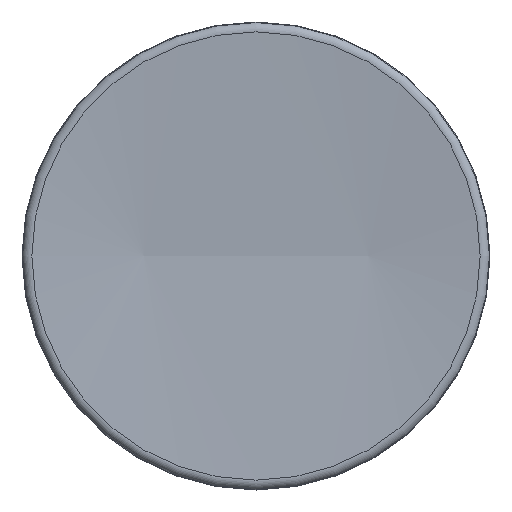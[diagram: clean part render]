
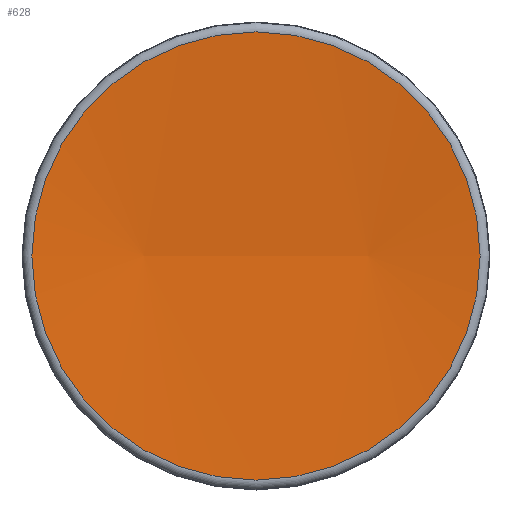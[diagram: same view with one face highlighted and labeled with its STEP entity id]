
A CAD part, front view. The second image highlights one B-rep face of the part: STEP entity #628.
In plain terms, the highlighted spherical face has radius 600 mm.
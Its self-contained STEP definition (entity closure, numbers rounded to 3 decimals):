
#28=SPHERICAL_SURFACE('',#857,600.);
#84=FACE_OUTER_BOUND('',#111,.T.);
#111=EDGE_LOOP('',(#597,#598));
#312=VERTEX_POINT('',#1803);
#313=VERTEX_POINT('',#1804);
#439=EDGE_CURVE('',#312,#313,#745,.T.);
#440=EDGE_CURVE('',#313,#312,#746,.T.);
#597=ORIENTED_EDGE('',*,*,#439,.T.);
#598=ORIENTED_EDGE('',*,*,#440,.T.);
#628=ADVANCED_FACE('',(#84),#28,.F.);
#745=CIRCLE('',#854,76.617);
#746=CIRCLE('',#855,76.617);
#854=AXIS2_PLACEMENT_3D('',#1805,#1054,#1055);
#855=AXIS2_PLACEMENT_3D('',#1806,#1056,#1057);
#857=AXIS2_PLACEMENT_3D('',#1808,#1060,#1061);
#1054=DIRECTION('center_axis',(0.,-1.,0.));
#1055=DIRECTION('ref_axis',(-1.,0.,0.));
#1056=DIRECTION('center_axis',(0.,-1.,0.));
#1057=DIRECTION('ref_axis',(-1.,0.,0.));
#1060=DIRECTION('center_axis',(0.,0.,
1.));
#1061=DIRECTION('ref_axis',(-1.,0.,0.));
#1803=CARTESIAN_POINT('',(0.,-730.625,76.617));
#1804=CARTESIAN_POINT('',(0.,-730.625,-76.617));
#1805=CARTESIAN_POINT('Origin',(0.,-730.625,
0.));
#1806=CARTESIAN_POINT('Origin',(0.,-730.625,
0.));
#1808=CARTESIAN_POINT('Origin',(0.,-1325.713,
0.));
